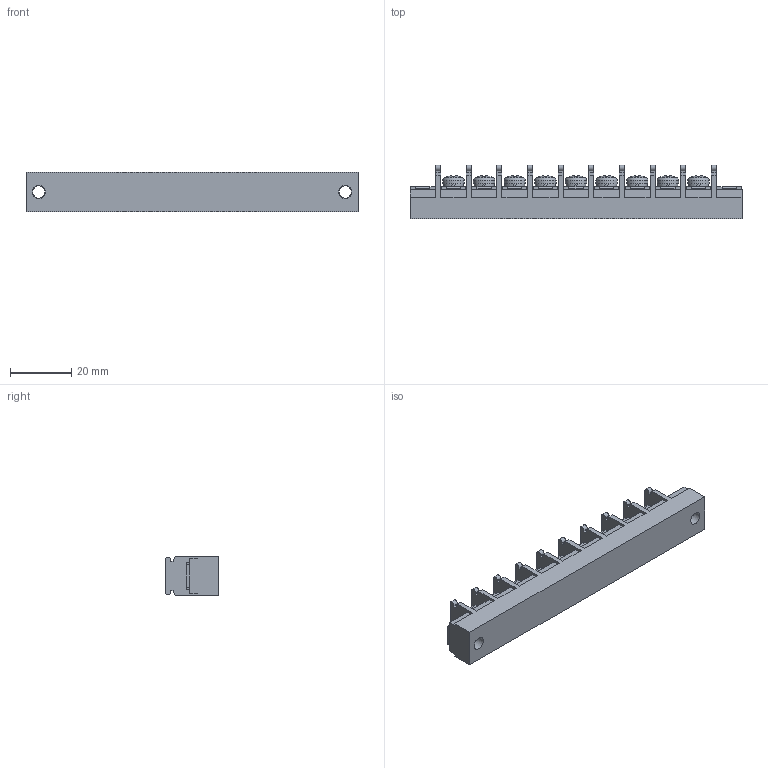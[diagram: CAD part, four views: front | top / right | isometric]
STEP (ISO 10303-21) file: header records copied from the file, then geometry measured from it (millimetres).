
FILE_DESCRIPTION(/* description */ ('Alibre Inc.'),/* implementation_level */ '2;1');
FILE_NAME(/* name */ 'export0',/* time_stamp */ '2015-10-17T18:46:10+09:00',/* author */ (''),/* organization */ (''),/* preprocessor_version */ 'ST-DEVELOPER v14',/* originating_system */ 'Alibre',/* authorisation */ '');
FILE_SCHEMA (('CONFIG_CONTROL_DESIGN'));
Length unit declared in the file: centimetre
Products named in the file (1): ID_1
Bounding box: 108.4 x 17.5 x 13 mm (x, y, z)
Volume: 15911 mm3; surface area: 9047.4 mm2
Topology: 1 solids, 17 shells, 962 faces, 2633 edges, 1747 vertices
Faces by surface type: plane 722, bspline 104, cylinder 73, cone 36, torus 18, sphere 9
Full cylindrical faces by diameter (mm): 4 x11, 4.2 x2, 6.5 x9, 7 x9
Entity records: 29462 total; most frequent: CARTESIAN_POINT 6476, ORIENTED_EDGE 5128, DIRECTION 3694, EDGE_CURVE 2564, VECTOR 1886, LINE 1886, VERTEX_POINT 1718, AXIS2_PLACEMENT_3D 1264
